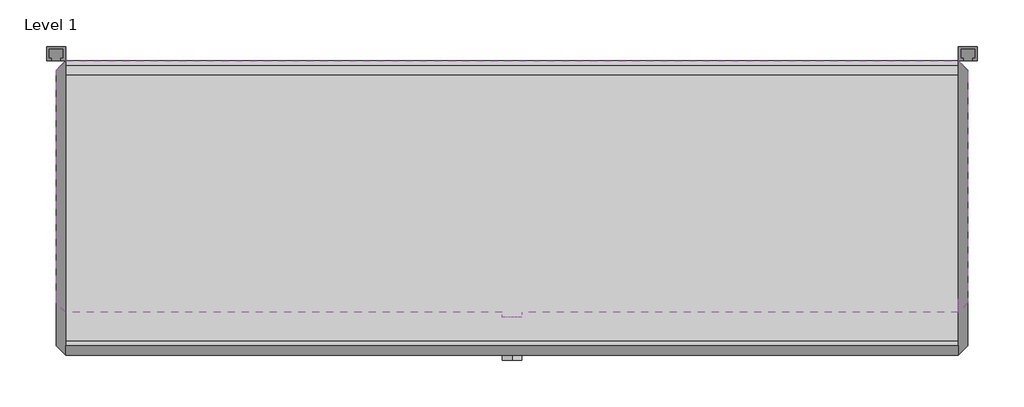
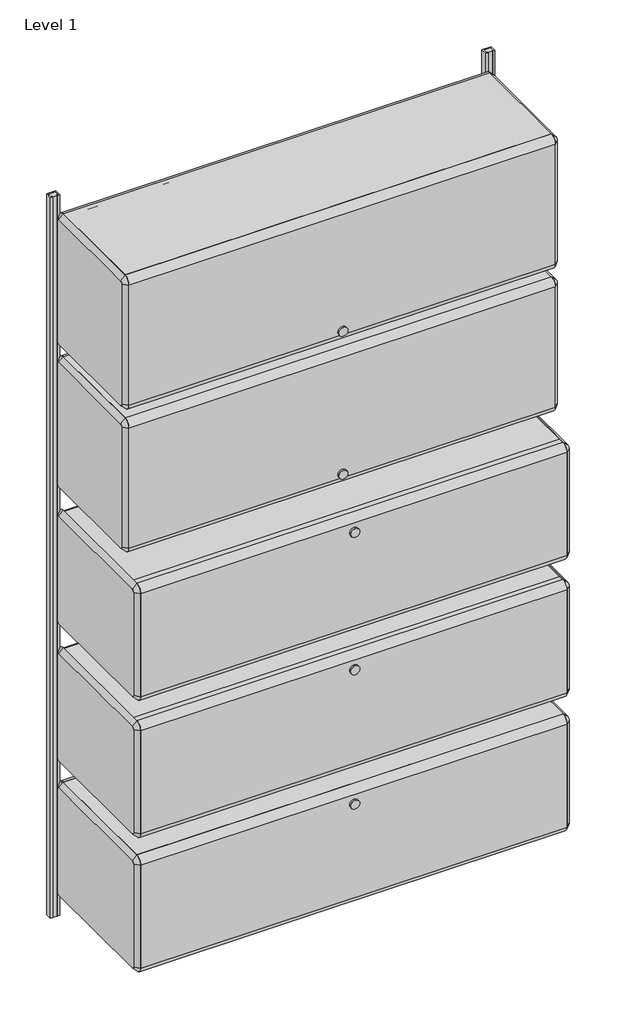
# One storey: 7 furniture elements.
"""IFC4 building model written with IfcOpenShell, lengths in millimetres."""

from ifc_helpers import new_model, si_unit, origin, place, context, project, spatial, transform, mapped, element, save
from components import furniture_f1771141, furniture_49ecb502, furniture_8348d9a5, furniture_23a4858b, furniture_ea425779

model = new_model("IFC4")

# Units and contexts
model_context = context("Model", 3, world=origin())
ifc_project = project(units=[si_unit("LENGTHUNIT", "METRE", prefix="MILLI")], contexts=[model_context])

# Site, building, storey
site = spatial("IfcSite", under=ifc_project)
building = spatial("IfcBuilding", under=site)
storey = spatial("IfcBuildingStorey", under=building, Name="Level 1", Elevation=0.0)

# Furniture
placement = place(None, origin())
furniture_shape = furniture_f1771141(model_context)
element("IfcFurniture", 1, ObjectType="HermanMiller_ActionOffice_A3121_B-StyleSuspendedLateralFile : 16\"D x 48\"W", at=placement, inside=storey, context=model_context, shape_type="MappedRepresentation", body=[
    mapped(furniture_shape, transform((609.6, -209.55, 0.0), x_axis=(1.0, 0.0, 0.0), y_axis=(0.0, 1.0, 0.0), z_axis=(0.0, 0.0, 1.0))),
])
furniture_2_shape = furniture_49ecb502(model_context)
element("IfcFurniture", 2, ObjectType="HermanMiller_ActionOffice_A3121_B-StyleSuspendedLateralFile : 16\"D x 48\"W", at=placement, inside=storey, context=model_context, shape_type="MappedRepresentation", body=[
    mapped(furniture_2_shape, transform((609.6, -209.55, 0.0), x_axis=(1.0, 0.0, 0.0), y_axis=(0.0, 1.0, 0.0), z_axis=(0.0, 0.0, 1.0))),
])
element("IfcFurniture", 3, ObjectType="HermanMiller_ActionOffice_A3121_B-StyleSuspendedLateralFile : 16\"D x 48\"W", at=placement, inside=storey, context=model_context, shape_type="MappedRepresentation", body=[
    mapped(furniture_2_shape, transform((609.6, -209.55, 406.4), x_axis=(1.0, 0.0, 0.0), y_axis=(0.0, 1.0, 0.0), z_axis=(0.0, 0.0, 1.0))),
])
furniture_3_shape = furniture_8348d9a5(model_context)
element("IfcFurniture", 4, ObjectType="HermanMiller_ActionOffice_A3352_B-StyleFlipperDoorUnit : 15 1/2\"H x 13\"D x 48\"W", at=placement, inside=storey, context=model_context, shape_type="MappedRepresentation", body=[
    mapped(furniture_3_shape, transform((609.6, -180.975, 0.0), x_axis=(1.0, 0.0, 0.0), y_axis=(0.0, 1.0, 0.0), z_axis=(0.0, 0.0, 1.0))),
])
furniture_4_shape = furniture_23a4858b(model_context)
element("IfcFurniture", 5, ObjectType="HermanMiller_ActionOffice_A3352_B-StyleFlipperDoorUnit : 15 1/2\"H x 13\"D x 48\"W", at=placement, inside=storey, context=model_context, shape_type="MappedRepresentation", body=[
    mapped(furniture_4_shape, transform((609.6, -180.975, 0.0), x_axis=(1.0, 0.0, 0.0), y_axis=(0.0, 1.0, 0.0), z_axis=(0.0, 0.0, 1.0))),
])
furniture_5_shape = furniture_ea425779(model_context)
element("IfcFurniture", 6, ObjectType="HermanMiller_ActionOffice_AO213_WallStrip : 84\"H", at=placement, inside=storey, context=model_context, shape_type="MappedRepresentation", body=[
    mapped(furniture_5_shape, transform((1219.2, 19.05, 0.0), x_axis=(1.0, 0.0, 0.0), y_axis=(0.0, 1.0, 0.0), z_axis=(0.0, 0.0, 1.0))),
])
element("IfcFurniture", 7, ObjectType="HermanMiller_ActionOffice_AO213_WallStrip : 84\"H", at=placement, inside=storey, context=model_context, shape_type="MappedRepresentation", body=[
    mapped(furniture_5_shape, transform((0.0, 19.05, 0.0), x_axis=(1.0, 0.0, 0.0), y_axis=(0.0, 1.0, 0.0), z_axis=(0.0, 0.0, 1.0))),
])

save(model, "model.ifc")
